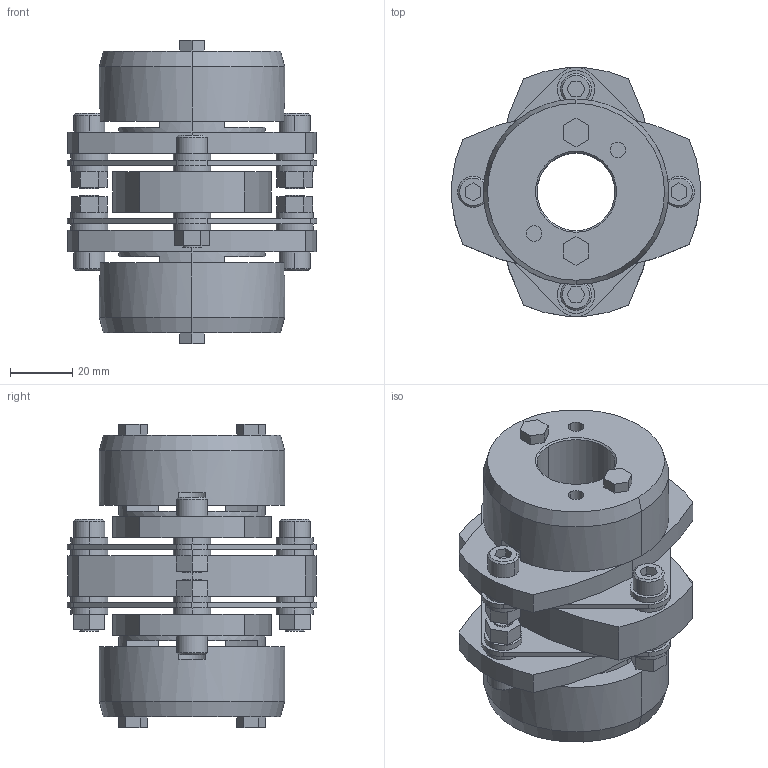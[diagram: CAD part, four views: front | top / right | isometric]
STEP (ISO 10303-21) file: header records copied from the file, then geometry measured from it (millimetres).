
FILE_DESCRIPTION((''),'2;1');
FILE_NAME('LCD-80T7-25×25.stp','2011-09-15T14:30:18',(''),(''),'AutoCAD STEP 2000i','AutoCAD 2000i',', , ');
FILE_SCHEMA(('CONFIG_CONTROL_DESIGN'));
Length unit declared in the file: millimetre
Products named in the file (10): LCD-80T7-24×24; 忣兜1; LC80T7-T024-1; LC80T7-T024; LC80T7-T022; LC80T7-T019-1; LC80T7-T019; LC80T7-T017-1; LC80T7-T017; LCD80-ITA
Assembly tree (9 placements, depth 2):
  LCD-80T7-24×24
    忣兜1
    LC80T7-T024-1
    LC80T7-T024
    LC80T7-T022
    LC80T7-T019-1
    LC80T7-T019
    LC80T7-T017-1
    LC80T7-T017
    LCD80-ITA
Bounding box: 80 x 79.95 x 97.5 mm (x, y, z)
Volume: 198286.8 mm3; surface area: 59734.3 mm2
Topology: 1 solids, 1 shells, 314 faces, 768 edges, 504 vertices
Faces by surface type: plane 166, cylinder 124, cone 24
Entity records: 9569 total; most frequent: DIRECTION 1712, CARTESIAN_POINT 1596, ORIENTED_EDGE 1536, EDGE_CURVE 768, AXIS2_PLACEMENT_3D 620, VERTEX_POINT 504, VECTOR 472, LINE 472
